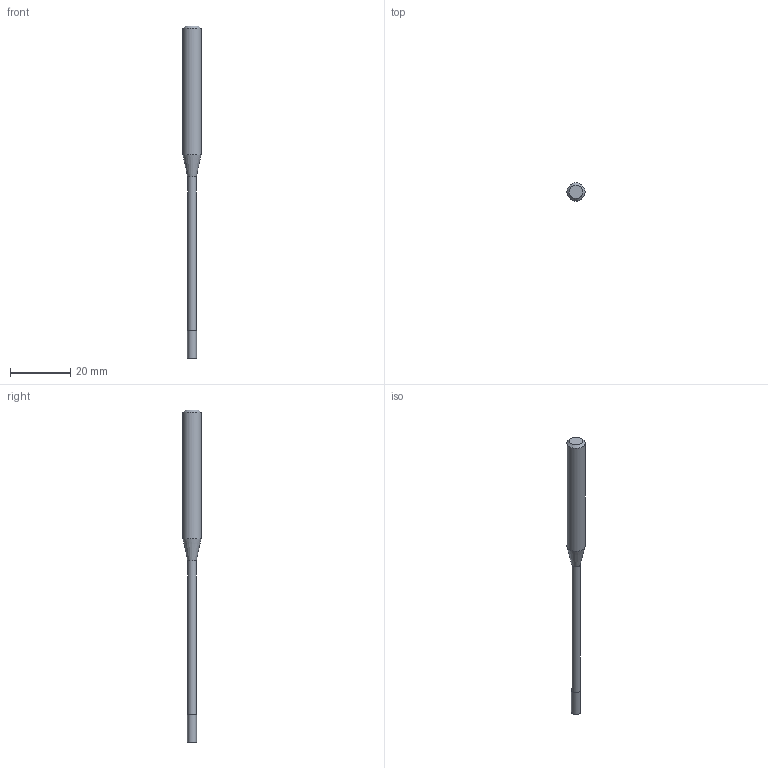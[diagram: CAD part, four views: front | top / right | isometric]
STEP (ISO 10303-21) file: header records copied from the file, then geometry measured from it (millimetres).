
FILE_DESCRIPTION((''),'2;1');
FILE_NAME('C:\Users\nsx150\Desktop\RSE230_20210427\01-00644-03060 RSE230 D3X9X60.step','2021-05-07T14:54:03',(''),(''),'STEP Write','Mastercam 2021 ... CNC Software, Inc.','');
FILE_SCHEMA(('AUTOMOTIVE_DESIGN'));
Length unit declared in the file: millimetre
Products named in the file (1): None
Bounding box: 6 x 6 x 110 mm (x, y, z)
Volume: 1706.4 mm3; surface area: 1488.7 mm2
Topology: 2 solids, 2 shells, 9 faces, 12 edges, 7 vertices
Faces by surface type: plane 4, cylinder 3, cone 2
Full cylindrical faces by diameter (mm): 2.85 x1, 3 x1, 6 x1
Entity records: 211 total; most frequent: DIRECTION 36, CARTESIAN_POINT 25, AXIS2_PLACEMENT_3D 18, ORIENTED_EDGE 14, EDGE_LOOP 14, STYLED_ITEM 12, ADVANCED_FACE 9, FACE_BOUND 8
